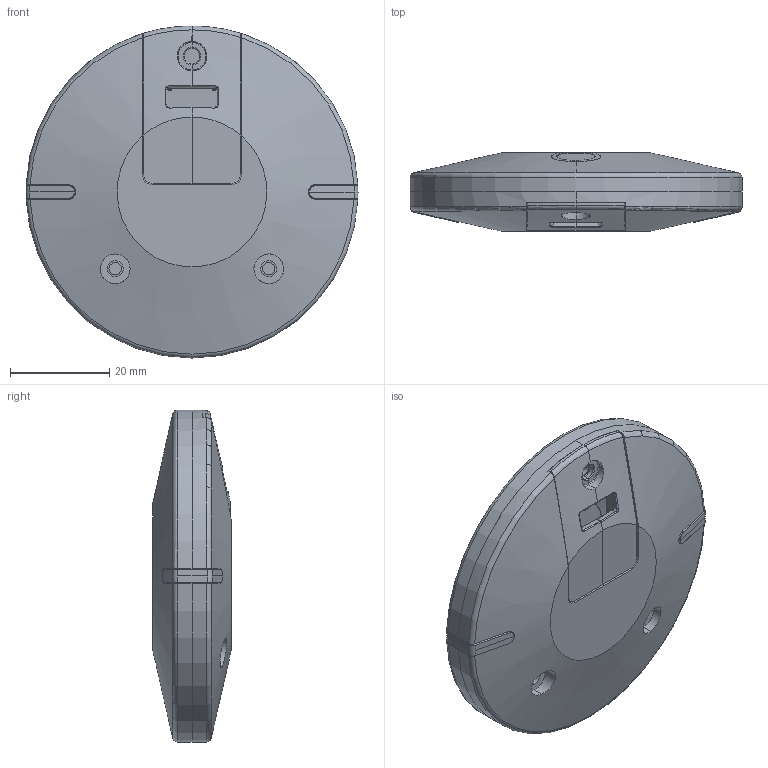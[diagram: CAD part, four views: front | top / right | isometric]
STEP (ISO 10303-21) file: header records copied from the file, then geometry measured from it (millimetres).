
FILE_DESCRIPTION (( 'STEP AP214' ), '1' );
FILE_NAME ('Here2.STEP', '2020-11-13T08:14:50', ( 'User' ), ( 'User' ), 'SwSTEP 2.0', 'SolidWorks 2018', '' );
FILE_SCHEMA (( 'AUTOMOTIVE_DESIGN' ));
Length unit declared in the file: millimetre
Products named in the file (3): Here2; Here+ rover v2; gps_top_here_logo_Here2_20180108.stp
Assembly tree (2 placements, depth 2):
  Here2
    Here+ rover v2
    gps_top_here_logo_Here2_20180108.stp
Bounding box: 67 x 15.8 x 67 mm (x, y, z)
Volume: 13744 mm3; surface area: 23528.3 mm2
Topology: 8 solids, 8 shells, 1306 faces, 3319 edges, 1939 vertices
Faces by surface type: cylinder 430, plane 285, torus 202, bspline 193, sphere 142, cone 54
Entity records: 61477 total; most frequent: CARTESIAN_POINT 22291, ORIENTED_EDGE 6412, DIRECTION 6035, EDGE_CURVE 3206, AXIS2_PLACEMENT_3D 2450, VERTEX_POINT 1925, CIRCLE 1332, EDGE_LOOP 1327
